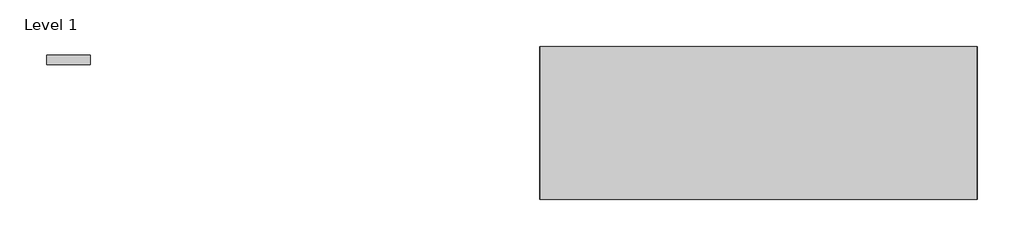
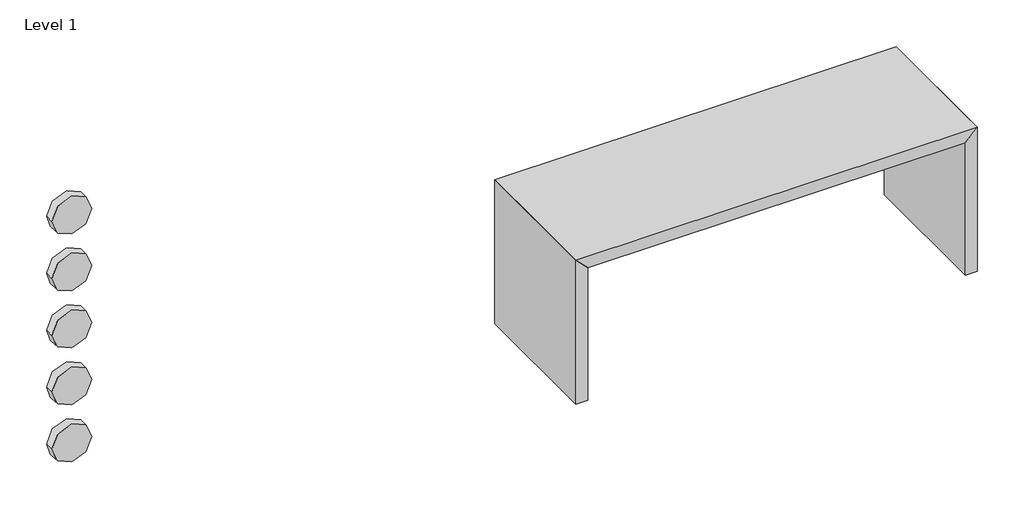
# One storey: 5 proxies, 1 furniture element.
"""IFC4 building model written with IfcOpenShell, lengths in millimetres."""

from ifc_helpers import new_model, si_unit, origin, place, context, project, spatial, transform, mapped, element, save
from components import materialmodel_materialmodel_aa49be07, furniture_1821b483

model = new_model("IFC4")

# Units and contexts
model_context = context("Model", 3, world=origin())
ifc_project = project(units=[si_unit("LENGTHUNIT", "METRE", prefix="MILLI")], contexts=[model_context])

# Site, building, storey
site = spatial("IfcSite", under=ifc_project)
building = spatial("IfcBuilding", under=site)
storey = spatial("IfcBuildingStorey", under=building, Name="Level 1", Elevation=0.0)

# Proxies
placement = place(None, origin())
materialmodel_materialmodel_shape = materialmodel_materialmodel_aa49be07(model_context)
element("IfcBuildingElementProxy", 1, Name="MaterialModel : MaterialModel", ObjectType="MaterialModel : MaterialModel", at=placement, inside=storey, context=model_context, shape_type="MappedRepresentation", body=[
    mapped(materialmodel_materialmodel_shape, transform((-4168.3714612, 3483.5454579, 685.0), x_axis=(1.0, 0.0, 0.0), y_axis=(0.0, 1.0, 0.0), z_axis=(0.0, 0.0, 1.0))),
])
element("IfcBuildingElementProxy", 2, Name="MaterialModel : MaterialModel", ObjectType="MaterialModel : MaterialModel", at=placement, inside=storey, context=model_context, shape_type="MappedRepresentation", body=[
    mapped(materialmodel_materialmodel_shape, transform((-4168.3714612, 3483.5454579, 535.0), x_axis=(1.0, 0.0, 0.0), y_axis=(0.0, 1.0, 0.0), z_axis=(0.0, 0.0, 1.0))),
])
element("IfcBuildingElementProxy", 3, Name="MaterialModel : MaterialModel", ObjectType="MaterialModel : MaterialModel", at=placement, inside=storey, context=model_context, shape_type="MappedRepresentation", body=[
    mapped(materialmodel_materialmodel_shape, transform((-4168.3714612, 3483.5454579, 385.0), x_axis=(1.0, 0.0, 0.0), y_axis=(0.0, 1.0, 0.0), z_axis=(0.0, 0.0, 1.0))),
])
element("IfcBuildingElementProxy", 4, Name="MaterialModel : MaterialModel", ObjectType="MaterialModel : MaterialModel", at=placement, inside=storey, context=model_context, shape_type="MappedRepresentation", body=[
    mapped(materialmodel_materialmodel_shape, transform((-4168.3714612, 3483.5454579, 235.0), x_axis=(1.0, 0.0, 0.0), y_axis=(0.0, 1.0, 0.0), z_axis=(0.0, 0.0, 1.0))),
])
element("IfcBuildingElementProxy", 5, Name="MaterialModel : MaterialModel", ObjectType="MaterialModel : MaterialModel", at=placement, inside=storey, context=model_context, shape_type="MappedRepresentation", body=[
    mapped(materialmodel_materialmodel_shape, transform((-4168.3714612, 3483.5454579, 85.0), x_axis=(1.0, 0.0, 0.0), y_axis=(0.0, 1.0, 0.0), z_axis=(0.0, 0.0, 1.0))),
])

# Furniture
furniture_shape = furniture_1821b483(model_context)
element("IfcFurniture", 6, ObjectType="Audo Copenhagen - Plinth - Bridge : Audo Copenhagen - Plinth - Bridge", at=placement, inside=storey, context=model_context, shape_type="MappedRepresentation", body=[
    mapped(furniture_shape, transform((-2590.4649448, 3339.4670228, 0.0), x_axis=(1.0, 0.0, 0.0), y_axis=(0.0, 1.0, 0.0), z_axis=(0.0, 0.0, 1.0))),
])

save(model, "model.ifc")
